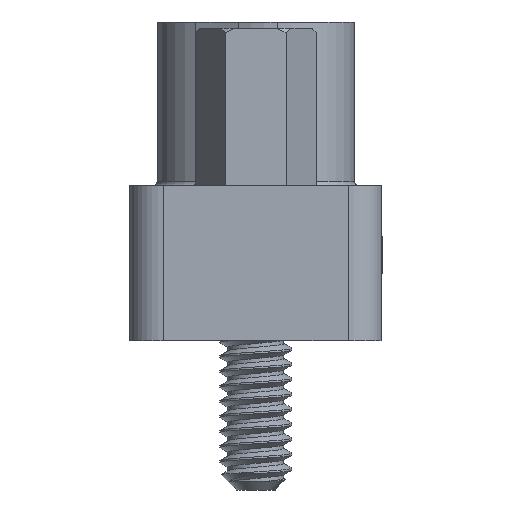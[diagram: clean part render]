
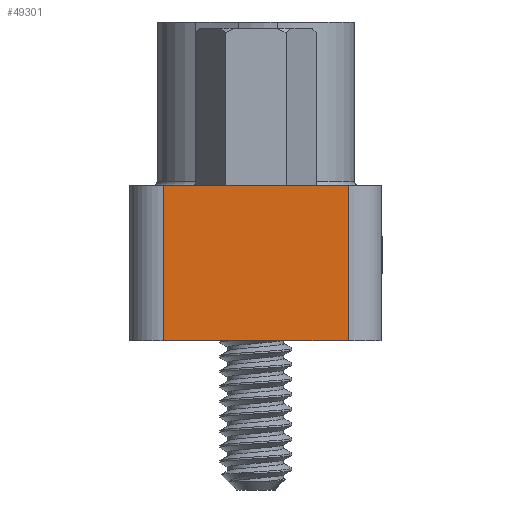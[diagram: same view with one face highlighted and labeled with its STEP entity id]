
A CAD part, left-side view. The second image highlights one B-rep face of the part: STEP entity #49301.
In plain terms, the highlighted planar face has unit normal (-1, 0, 0).
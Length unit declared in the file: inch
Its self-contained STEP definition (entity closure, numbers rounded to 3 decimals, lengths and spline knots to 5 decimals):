
#2365 = CARTESIAN_POINT ( 'NONE',  ( -0.9125, -0.11, -0.145 ) ) ;
#4729 = VECTOR ( 'NONE', #76911, 39.37008 ) ;
#5019 = VECTOR ( 'NONE', #50809, 39.37008 ) ;
#10910 = PLANE ( 'NONE',  #44633 ) ;
#11679 = LINE ( 'NONE', #38562, #4729 ) ;
#13800 = LINE ( 'NONE', #40641, #55778 ) ;
#14143 = CARTESIAN_POINT ( 'NONE',  ( -0.9125, 0.11, 0.04 ) ) ;
#18795 = DIRECTION ( 'NONE',  ( 0., 0., 1. ) ) ;
#19231 = LINE ( 'NONE', #46132, #85698 ) ;
#23475 = CARTESIAN_POINT ( 'NONE',  ( -0.9125, -0.11, -0.145 ) ) ;
#25483 = VERTEX_POINT ( 'NONE', #2365 ) ;
#28878 = ORIENTED_EDGE ( 'NONE', *, *, #55899, .T. ) ;
#31703 = ORIENTED_EDGE ( 'NONE', *, *, #63829, .F. ) ;
#32329 = EDGE_CURVE ( 'NONE', #46518, #48851, #13800, .T. ) ;
#34889 = DIRECTION ( 'NONE',  ( 0., 0., -1. ) ) ;
#38562 = CARTESIAN_POINT ( 'NONE',  ( -0.9125, -0.11, 0.04 ) ) ;
#39009 = EDGE_CURVE ( 'NONE', #40144, #25483, #19231, .T. ) ;
#40144 = VERTEX_POINT ( 'NONE', #84738 ) ;
#40641 = CARTESIAN_POINT ( 'NONE',  ( -0.9125, 0.11, 0.04 ) ) ;
#43155 = CARTESIAN_POINT ( 'NONE',  ( -0.9125, 0.11, -0.145 ) ) ;
#44633 = AXIS2_PLACEMENT_3D ( 'NONE', #79141, #66414, #18795 ) ;
#46132 = CARTESIAN_POINT ( 'NONE',  ( -0.9125, -0.11, 0.04 ) ) ;
#46518 = VERTEX_POINT ( 'NONE', #14143 ) ;
#48851 = VERTEX_POINT ( 'NONE', #43155 ) ;
#49301 = ADVANCED_FACE ( 'NONE', ( #58114 ), #10910, .T. ) ;
#49649 = ORIENTED_EDGE ( 'NONE', *, *, #32329, .T. ) ;
#50809 = DIRECTION ( 'NONE',  ( 0., 1., 0. ) ) ;
#53967 = EDGE_LOOP ( 'NONE', ( #49649, #31703, #83335, #28878 ) ) ;
#55778 = VECTOR ( 'NONE', #34889, 39.37008 ) ;
#55899 = EDGE_CURVE ( 'NONE', #40144, #46518, #11679, .T. ) ;
#57455 = LINE ( 'NONE', #23475, #5019 ) ;
#58114 = FACE_OUTER_BOUND ( 'NONE', #53967, .T. ) ;
#63829 = EDGE_CURVE ( 'NONE', #25483, #48851, #57455, .T. ) ;
#66414 = DIRECTION ( 'NONE',  ( -1., 0., 0. ) ) ;
#67272 = DIRECTION ( 'NONE',  ( 0., 0., -1. ) ) ;
#76911 = DIRECTION ( 'NONE',  ( 0., 1., 0. ) ) ;
#79141 = CARTESIAN_POINT ( 'NONE',  ( -0.9125, -0.11, 0.04 ) ) ;
#83335 = ORIENTED_EDGE ( 'NONE', *, *, #39009, .F. ) ;
#84738 = CARTESIAN_POINT ( 'NONE',  ( -0.9125, -0.11, 0.04 ) ) ;
#85698 = VECTOR ( 'NONE', #67272, 39.37008 ) ;
